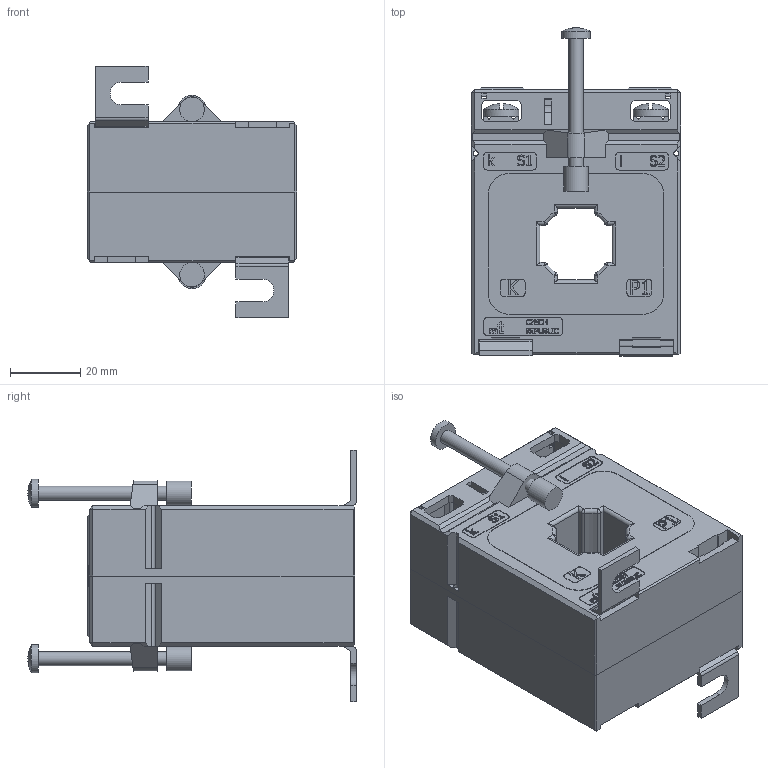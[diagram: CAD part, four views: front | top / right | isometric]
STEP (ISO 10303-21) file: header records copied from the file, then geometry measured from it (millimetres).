
FILE_DESCRIPTION(/* description */ (''),/* implementation_level */ '2;1');
FILE_NAME(/* name */ 'CLB 2.64.step',/* time_stamp */ '2024-10-11T21:01:28+02:00',/* author */ ('peter'),/* organization */ (''),/* preprocessor_version */ 'ST-DEVELOPER v20',/* originating_system */ 'Autodesk Inventor 2025',/* authorisation */ '');
FILE_SCHEMA (('AUTOMOTIVE_DESIGN { 1 0 10303 214 3 1 1 }'));
Length unit declared in the file: millimetre
Products named in the file (10): Current transformer CLB 2.64; Front plastic case CLB 2.64; Back plastic case CLB 2.64; Tape label CLB 2.64; Secondary terminal 28 CLB; Secondary terminal cover 37 CLB; Metal mounting foot CLB; Screw M5x8; Screw 4x60; Insulating cap
Assembly tree (17 placements, depth 2):
  Current transformer CLB 2.64
    Front plastic case CLB 2.64
    Back plastic case CLB 2.64
    Tape label CLB 2.64
    Secondary terminal 28 CLB  x2
    Secondary terminal cover 37 CLB  x2
    Metal mounting foot CLB  x2
    Screw M5x8  x4
    Screw 4x60  x2
    Insulating cap  x2
Bounding box: 59.5 x 93.34 x 71.5 mm (x, y, z)
Volume: 158080.5 mm3; surface area: 46458.6 mm2
Topology: 17 solids, 17 shells, 1693 faces, 4610 edges, 3030 vertices
Faces by surface type: plane 1077, bspline 376, cylinder 192, sphere 26, cone 14, torus 8
Full cylindrical faces by diameter (mm): 1.5 x4, 2.5 x2, 2.95 x2, 3 x4, 3.5 x2, 4 x4, 4.134 x4, 5 x4, 7 x2, 8 x2, 10 x4
Entity records: 49962 total; most frequent: CARTESIAN_POINT 13325, ORIENTED_EDGE 8262, DIRECTION 6037, EDGE_CURVE 4131, LINE 3011, VECTOR 3011, VERTEX_POINT 2719, EDGE_LOOP 1630
